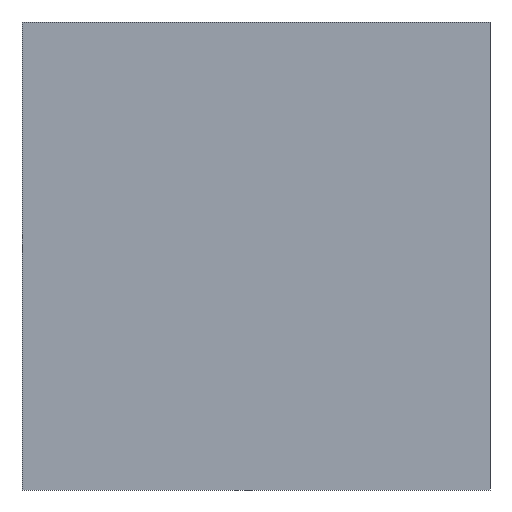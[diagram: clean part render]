
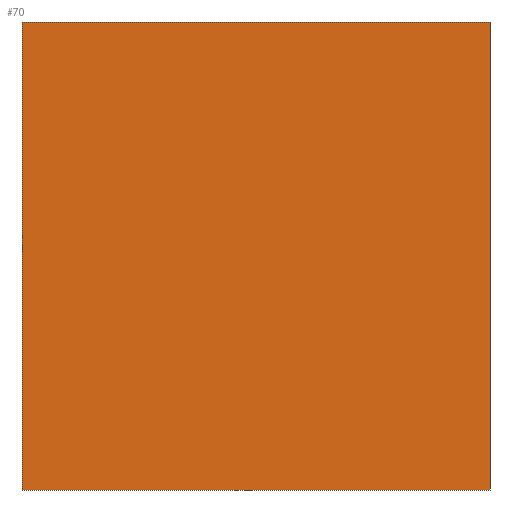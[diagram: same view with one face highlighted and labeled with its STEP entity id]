
A CAD part, left-side view. The second image highlights one B-rep face of the part: STEP entity #70.
In plain terms, the highlighted planar face has unit normal (-1, 0, 0).
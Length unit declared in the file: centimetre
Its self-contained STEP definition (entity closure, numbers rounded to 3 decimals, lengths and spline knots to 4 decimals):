
#31 = VECTOR ( 'NONE', #315, 100. ) ;
#32 = LINE ( 'NONE', #179, #260 ) ;
#38 = DIRECTION ( 'NONE',  ( 0., -1., 0. ) ) ;
#63 = CARTESIAN_POINT ( 'NONE',  ( 0., 1000., 1000. ) ) ;
#70 = ADVANCED_FACE ( 'NONE', ( #348 ), #178, .F. ) ;
#88 = DIRECTION ( 'NONE',  ( 0., 0., -1. ) ) ;
#94 = AXIS2_PLACEMENT_3D ( 'NONE', #244, #374, #88 ) ;
#105 = VECTOR ( 'NONE', #38, 100. ) ;
#122 = LINE ( 'NONE', #247, #197 ) ;
#131 = ORIENTED_EDGE ( 'NONE', *, *, #243, .T. ) ;
#134 = ORIENTED_EDGE ( 'NONE', *, *, #257, .F. ) ;
#166 = ORIENTED_EDGE ( 'NONE', *, *, #382, .T. ) ;
#178 = PLANE ( 'NONE',  #94 ) ;
#179 = CARTESIAN_POINT ( 'NONE',  ( 0., 1000., 1000. ) ) ;
#182 = CARTESIAN_POINT ( 'NONE',  ( 0., 1000., 1000. ) ) ;
#185 = EDGE_CURVE ( 'NONE', #298, #239, #122, .T. ) ;
#189 = CARTESIAN_POINT ( 'NONE',  ( 0., 1000., 0. ) ) ;
#197 = VECTOR ( 'NONE', #218, 100. ) ;
#218 = DIRECTION ( 'NONE',  ( 0., 0., -1. ) ) ;
#227 = EDGE_LOOP ( 'NONE', ( #166, #265, #134, #131 ) ) ;
#239 = VERTEX_POINT ( 'NONE', #256 ) ;
#243 = EDGE_CURVE ( 'NONE', #305, #375, #313, .T. ) ;
#244 = CARTESIAN_POINT ( 'NONE',  ( 0., 1000., 1000. ) ) ;
#247 = CARTESIAN_POINT ( 'NONE',  ( 0., 0., 1000. ) ) ;
#252 = CARTESIAN_POINT ( 'NONE',  ( 0., 1000., 0. ) ) ;
#256 = CARTESIAN_POINT ( 'NONE',  ( 0., 0., 0. ) ) ;
#257 = EDGE_CURVE ( 'NONE', #305, #298, #32, .T. ) ;
#260 = VECTOR ( 'NONE', #318, 100. ) ;
#265 = ORIENTED_EDGE ( 'NONE', *, *, #185, .F. ) ;
#298 = VERTEX_POINT ( 'NONE', #356 ) ;
#305 = VERTEX_POINT ( 'NONE', #182 ) ;
#313 = LINE ( 'NONE', #63, #31 ) ;
#315 = DIRECTION ( 'NONE',  ( 0., 0., -1. ) ) ;
#318 = DIRECTION ( 'NONE',  ( 0., -1., 0. ) ) ;
#322 = LINE ( 'NONE', #252, #105 ) ;
#348 = FACE_OUTER_BOUND ( 'NONE', #227, .T. ) ;
#356 = CARTESIAN_POINT ( 'NONE',  ( 0., 0., 1000. ) ) ;
#374 = DIRECTION ( 'NONE',  ( 1., 0., 0. ) ) ;
#375 = VERTEX_POINT ( 'NONE', #189 ) ;
#382 = EDGE_CURVE ( 'NONE', #375, #239, #322, .T. ) ;
